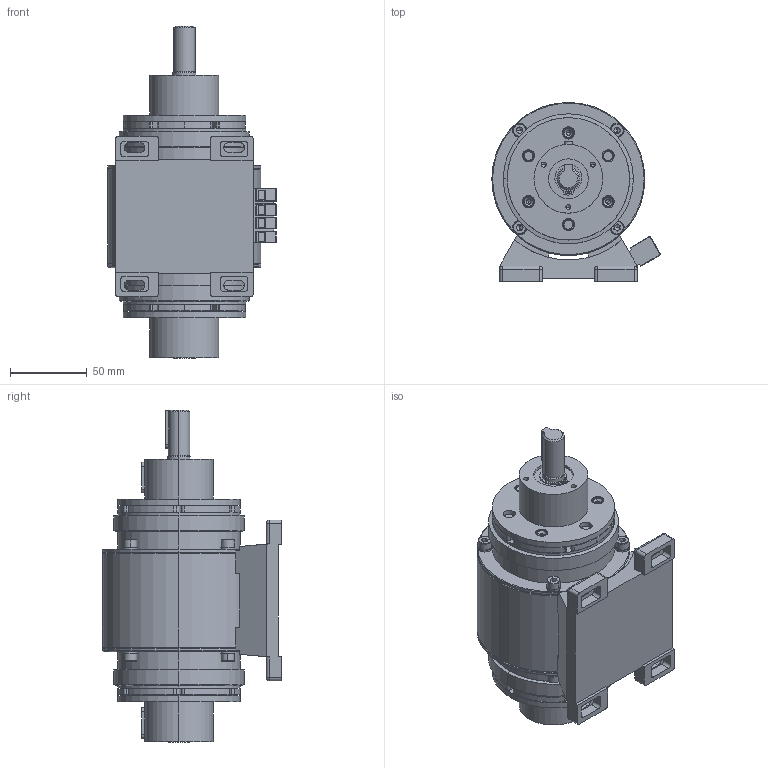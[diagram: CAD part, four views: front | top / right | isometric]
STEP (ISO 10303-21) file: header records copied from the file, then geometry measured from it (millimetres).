
FILE_DESCRIPTION (( 'STEP AP203' ), '1' );
FILE_NAME ('S-M10-A23.STEP', '2020-04-17T07:47:59', ( '' ), ( '' ), 'SwSTEP 2.0', 'SolidWorks 2015', '' );
FILE_SCHEMA (( 'CONFIG_CONTROL_DESIGN' ));
Length unit declared in the file: millimetre
Products named in the file (1): S-M10-A23
Bounding box: 109.97 x 117 x 217 mm (x, y, z)
Volume: 1067643.4 mm3; surface area: 123768.2 mm2
Topology: 1 solids, 7 shells, 1165 faces, 2858 edges, 1752 vertices
Faces by surface type: plane 479, cylinder 411, cone 139, torus 128, sphere 8
Entity records: 34345 total; most frequent: DIRECTION 6438, CARTESIAN_POINT 6012, ORIENTED_EDGE 5596, EDGE_CURVE 2798, AXIS2_PLACEMENT_3D 2508, VERTEX_POINT 1752, LINE 1422, VECTOR 1422
